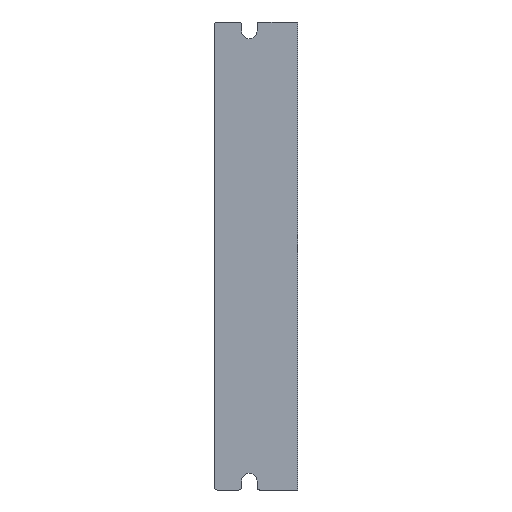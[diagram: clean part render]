
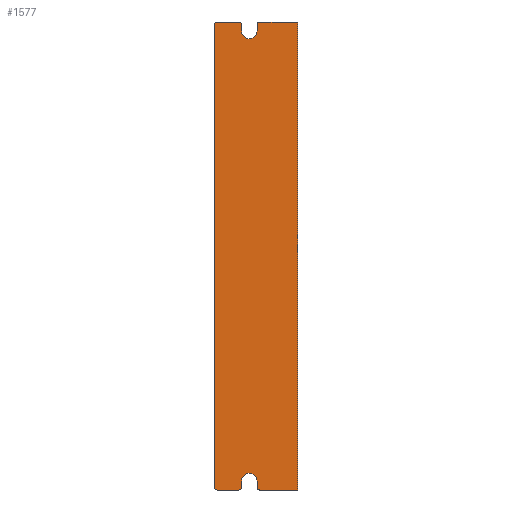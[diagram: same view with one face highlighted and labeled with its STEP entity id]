
A CAD part, left-side view. The second image highlights one B-rep face of the part: STEP entity #1577.
In plain terms, the highlighted planar face has unit normal (-1, 0, 0).
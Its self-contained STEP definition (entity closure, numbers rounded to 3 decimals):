
#29=DIRECTION('',(0.,1.,0.));
#30=VECTOR('',#29,8.1);
#31=CARTESIAN_POINT('',(0.,21.9,-87.325));
#32=LINE('',#31,#30);
#53=DIRECTION('',(0.,1.,0.));
#54=VECTOR('',#53,14.1);
#55=CARTESIAN_POINT('',(0.,0.,-87.325));
#56=LINE('',#55,#54);
#459=DIRECTION('',(0.,1.,0.));
#460=VECTOR('',#459,8.1);
#461=CARTESIAN_POINT('',(0.,21.9,87.325));
#462=LINE('',#461,#460);
#483=DIRECTION('',(0.,1.,0.));
#484=VECTOR('',#483,14.1);
#485=CARTESIAN_POINT('',(0.,0.,87.325));
#486=LINE('',#485,#484);
#535=CARTESIAN_POINT('',(0.,14.1,-86.325));
#536=DIRECTION('',(-1.,0.,0.));
#537=DIRECTION('',(0.,1.,0.));
#538=AXIS2_PLACEMENT_3D('',#535,#536,#537);
#540=DIRECTION('',(0.,0.,1.));
#541=VECTOR('',#540,2.3);
#542=CARTESIAN_POINT('',(0.,15.1,-86.325));
#543=LINE('',#542,#541);
#544=CARTESIAN_POINT('',(0.,18.,-84.025));
#545=DIRECTION('',(1.,0.,0.));
#546=DIRECTION('',(0.,1.,0.));
#547=AXIS2_PLACEMENT_3D('',#544,#545,#546);
#549=DIRECTION('',(0.,0.,1.));
#550=VECTOR('',#549,2.3);
#551=CARTESIAN_POINT('',(0.,20.9,-86.325));
#552=LINE('',#551,#550);
#553=CARTESIAN_POINT('',(0.,21.9,-86.325));
#554=DIRECTION('',(-1.,0.,0.));
#555=DIRECTION('',(0.,0.,-1.));
#556=AXIS2_PLACEMENT_3D('',#553,#554,#555);
#558=CARTESIAN_POINT('',(0.,30.,-86.325));
#559=DIRECTION('',(-1.,0.,0.));
#560=DIRECTION('',(0.,1.,0.));
#561=AXIS2_PLACEMENT_3D('',#558,#559,#560);
#563=CARTESIAN_POINT('',(0.,30.,86.325));
#564=DIRECTION('',(-1.,0.,0.));
#565=DIRECTION('',(0.,0.,1.));
#566=AXIS2_PLACEMENT_3D('',#563,#564,#565);
#568=CARTESIAN_POINT('',(0.,21.9,86.325));
#569=DIRECTION('',(-1.,0.,0.));
#570=DIRECTION('',(0.,-1.,0.));
#571=AXIS2_PLACEMENT_3D('',#568,#569,#570);
#573=DIRECTION('',(0.,0.,-1.));
#574=VECTOR('',#573,2.3);
#575=CARTESIAN_POINT('',(0.,20.9,86.325));
#576=LINE('',#575,#574);
#577=CARTESIAN_POINT('',(0.,18.,84.025));
#578=DIRECTION('',(1.,0.,0.));
#579=DIRECTION('',(0.,-1.,0.));
#580=AXIS2_PLACEMENT_3D('',#577,#578,#579);
#582=DIRECTION('',(0.,0.,-1.));
#583=VECTOR('',#582,2.3);
#584=CARTESIAN_POINT('',(0.,15.1,86.325));
#585=LINE('',#584,#583);
#586=CARTESIAN_POINT('',(0.,14.1,86.325));
#587=DIRECTION('',(-1.,0.,0.));
#588=DIRECTION('',(0.,0.,1.));
#589=AXIS2_PLACEMENT_3D('',#586,#587,#588);
#591=DIRECTION('',(0.,0.,1.));
#592=VECTOR('',#591,174.65);
#593=CARTESIAN_POINT('',(0.,0.,-87.325));
#594=LINE('',#593,#592);
#653=DIRECTION('',(0.,0.,1.));
#654=VECTOR('',#653,172.65);
#655=CARTESIAN_POINT('',(0.,31.,-86.325));
#656=LINE('',#655,#654);
#817=CARTESIAN_POINT('',(0.,0.,-87.325));
#818=CARTESIAN_POINT('',(0.,0.,87.325));
#819=VERTEX_POINT('',#817);
#820=VERTEX_POINT('',#818);
#829=CARTESIAN_POINT('',(0.,15.1,84.025));
#830=CARTESIAN_POINT('',(0.,20.9,84.025));
#831=VERTEX_POINT('',#829);
#832=VERTEX_POINT('',#830);
#837=CARTESIAN_POINT('',(0.,20.9,-84.025));
#838=CARTESIAN_POINT('',(0.,15.1,-84.025));
#839=VERTEX_POINT('',#837);
#840=VERTEX_POINT('',#838);
#917=CARTESIAN_POINT('',(0.,15.1,-86.325));
#918=VERTEX_POINT('',#917);
#919=CARTESIAN_POINT('',(0.,14.1,-87.325));
#920=VERTEX_POINT('',#919);
#921=CARTESIAN_POINT('',(0.,21.9,-87.325));
#922=CARTESIAN_POINT('',(0.,20.9,-86.325));
#923=VERTEX_POINT('',#921);
#924=VERTEX_POINT('',#922);
#933=CARTESIAN_POINT('',(0.,31.,-86.325));
#934=VERTEX_POINT('',#933);
#935=CARTESIAN_POINT('',(0.,30.,-87.325));
#936=VERTEX_POINT('',#935);
#937=CARTESIAN_POINT('',(0.,30.,87.325));
#938=CARTESIAN_POINT('',(0.,31.,86.325));
#939=VERTEX_POINT('',#937);
#940=VERTEX_POINT('',#938);
#949=CARTESIAN_POINT('',(0.,20.9,86.325));
#950=VERTEX_POINT('',#949);
#951=CARTESIAN_POINT('',(0.,21.9,87.325));
#952=VERTEX_POINT('',#951);
#953=CARTESIAN_POINT('',(0.,14.1,87.325));
#954=CARTESIAN_POINT('',(0.,15.1,86.325));
#955=VERTEX_POINT('',#953);
#956=VERTEX_POINT('',#954);
#1540=CARTESIAN_POINT('',(0.,0.,-87.325));
#1541=DIRECTION('',(-1.,0.,0.));
#1542=DIRECTION('',(0.,1.,0.));
#1543=AXIS2_PLACEMENT_3D('',#1540,#1541,#1542);
#1544=PLANE('',#1543);
#1546=ORIENTED_EDGE('',*,*,#1545,.F.);
#1548=ORIENTED_EDGE('',*,*,#1547,.T.);
#1550=ORIENTED_EDGE('',*,*,#1549,.F.);
#1552=ORIENTED_EDGE('',*,*,#1551,.F.);
#1554=ORIENTED_EDGE('',*,*,#1553,.F.);
#1555=ORIENTED_EDGE('',*,*,#1112,.T.);
#1557=ORIENTED_EDGE('',*,*,#1556,.F.);
#1559=ORIENTED_EDGE('',*,*,#1558,.T.);
#1560=ORIENTED_EDGE('',*,*,#1530,.F.);
#1561=ORIENTED_EDGE('',*,*,#1474,.F.);
#1563=ORIENTED_EDGE('',*,*,#1562,.F.);
#1565=ORIENTED_EDGE('',*,*,#1564,.T.);
#1567=ORIENTED_EDGE('',*,*,#1566,.F.);
#1569=ORIENTED_EDGE('',*,*,#1568,.F.);
#1571=ORIENTED_EDGE('',*,*,#1570,.F.);
#1572=ORIENTED_EDGE('',*,*,#1491,.F.);
#1573=ORIENTED_EDGE('',*,*,#1303,.F.);
#1574=ORIENTED_EDGE('',*,*,#1132,.T.);
#1575=EDGE_LOOP('',(#1546,#1548,#1550,#1552,#1554,#1555,#1557,#1559,#1560,#1561,
#1563,#1565,#1567,#1569,#1571,#1572,#1573,#1574));
#1576=FACE_OUTER_BOUND('',#1575,.F.);
#1577=ADVANCED_FACE('',(#1576),#1544,.T.);
#539=CIRCLE('',#538,1.);
#548=CIRCLE('',#547,2.9);
#557=CIRCLE('',#556,1.);
#562=CIRCLE('',#561,1.);
#567=CIRCLE('',#566,1.);
#572=CIRCLE('',#571,1.);
#581=CIRCLE('',#580,2.9);
#590=CIRCLE('',#589,1.);
#1112=EDGE_CURVE('',#923,#936,#32,.T.);
#1132=EDGE_CURVE('',#819,#920,#56,.T.);
#1303=EDGE_CURVE('',#819,#820,#594,.T.);
#1474=EDGE_CURVE('',#952,#939,#462,.T.);
#1491=EDGE_CURVE('',#820,#955,#486,.T.);
#1530=EDGE_CURVE('',#939,#940,#567,.T.);
#1545=EDGE_CURVE('',#918,#920,#539,.T.);
#1547=EDGE_CURVE('',#918,#840,#543,.T.);
#1549=EDGE_CURVE('',#839,#840,#548,.T.);
#1551=EDGE_CURVE('',#924,#839,#552,.T.);
#1553=EDGE_CURVE('',#923,#924,#557,.T.);
#1556=EDGE_CURVE('',#934,#936,#562,.T.);
#1558=EDGE_CURVE('',#934,#940,#656,.T.);
#1562=EDGE_CURVE('',#950,#952,#572,.T.);
#1564=EDGE_CURVE('',#950,#832,#576,.T.);
#1566=EDGE_CURVE('',#831,#832,#581,.T.);
#1568=EDGE_CURVE('',#956,#831,#585,.T.);
#1570=EDGE_CURVE('',#955,#956,#590,.T.);
